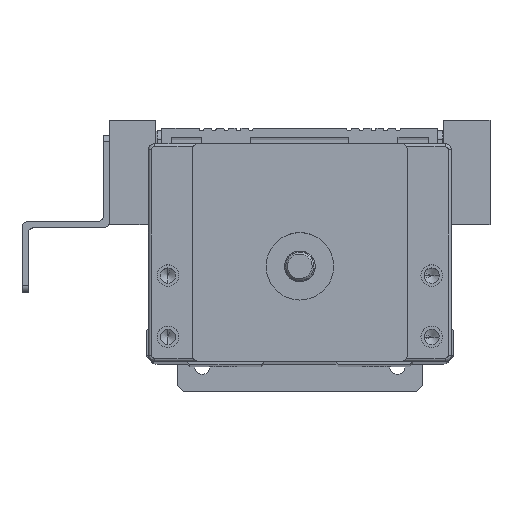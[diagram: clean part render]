
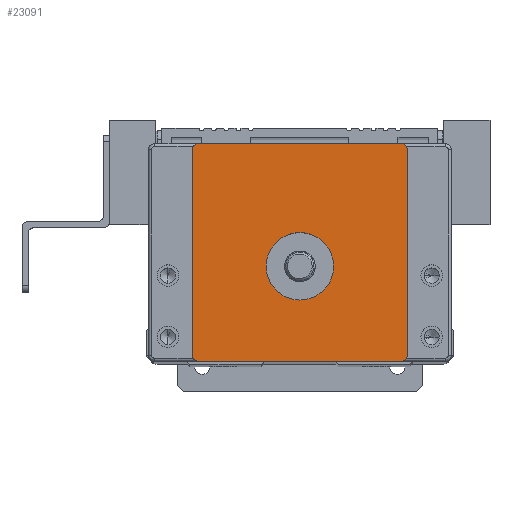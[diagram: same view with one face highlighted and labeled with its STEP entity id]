
A CAD part, top view. The second image highlights one B-rep face of the part: STEP entity #23091.
In plain terms, the highlighted planar face has unit normal (0, 0, 1).
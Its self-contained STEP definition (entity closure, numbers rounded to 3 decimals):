
#305 = CIRCLE ( 'NONE', #14840, 1. ) ;
#519 = DIRECTION ( 'NONE',  ( -1., 0., 0. ) ) ;
#833 = FACE_BOUND ( 'NONE', #13162, .T. ) ;
#2068 = CARTESIAN_POINT ( 'NONE',  ( -17.5, 0., 10. ) ) ;
#2454 = CIRCLE ( 'NONE', #12932, 5.5 ) ;
#2723 = CARTESIAN_POINT ( 'NONE',  ( 16.5, -16.75, 10. ) ) ;
#2994 = CARTESIAN_POINT ( 'NONE',  ( 24.7, 17.75, 10. ) ) ;
#3282 = DIRECTION ( 'NONE',  ( 1., 0., 0. ) ) ;
#3734 = DIRECTION ( 'NONE',  ( 0., 0., -1. ) ) ;
#3794 = CARTESIAN_POINT ( 'NONE',  ( -17.5, 16.75, 10. ) ) ;
#4267 = VERTEX_POINT ( 'NONE', #20035 ) ;
#4440 = CARTESIAN_POINT ( 'NONE',  ( 0., -2.25, 10. ) ) ;
#4634 = DIRECTION ( 'NONE',  ( 0., 0., 1. ) ) ;
#5000 = CARTESIAN_POINT ( 'NONE',  ( -5.5, -2.25, 10. ) ) ;
#5219 = DIRECTION ( 'NONE',  ( -1., 0., 0. ) ) ;
#5309 = EDGE_CURVE ( 'NONE', #22782, #15042, #30340, .T. ) ;
#5402 = ORIENTED_EDGE ( 'NONE', *, *, #21444, .T. ) ;
#5727 = CARTESIAN_POINT ( 'NONE',  ( 17.5, 0., 10. ) ) ;
#5755 = CARTESIAN_POINT ( 'NONE',  ( 5.5, -2.25, 10. ) ) ;
#6715 = CARTESIAN_POINT ( 'NONE',  ( 16.5, -17.75, 10. ) ) ;
#6928 = DIRECTION ( 'NONE',  ( -1., 0., 0. ) ) ;
#6946 = EDGE_CURVE ( 'NONE', #9465, #4267, #20616, .T. ) ;
#7200 = CARTESIAN_POINT ( 'NONE',  ( 24.7, -17.75, 10. ) ) ;
#7702 = CIRCLE ( 'NONE', #8047, 1. ) ;
#8012 = VERTEX_POINT ( 'NONE', #3794 ) ;
#8047 = AXIS2_PLACEMENT_3D ( 'NONE', #13707, #30867, #16187 ) ;
#8057 = CARTESIAN_POINT ( 'NONE',  ( -17.5, -16.75, 10. ) ) ;
#8163 = ORIENTED_EDGE ( 'NONE', *, *, #29317, .T. ) ;
#8520 = ORIENTED_EDGE ( 'NONE', *, *, #30378, .T. ) ;
#9381 = VECTOR ( 'NONE', #16817, 1000. ) ;
#9465 = VERTEX_POINT ( 'NONE', #31837 ) ;
#9469 = ORIENTED_EDGE ( 'NONE', *, *, #9665, .T. ) ;
#9665 = EDGE_CURVE ( 'NONE', #17895, #9465, #20188, .T. ) ;
#10252 = VERTEX_POINT ( 'NONE', #8057 ) ;
#10355 = ORIENTED_EDGE ( 'NONE', *, *, #24929, .T. ) ;
#10572 = VECTOR ( 'NONE', #519, 1000. ) ;
#10829 = VERTEX_POINT ( 'NONE', #5755 ) ;
#10916 = VERTEX_POINT ( 'NONE', #30624 ) ;
#11405 = CARTESIAN_POINT ( 'NONE',  ( -16.5, 16.75, 10. ) ) ;
#11549 = VECTOR ( 'NONE', #24344, 1000. ) ;
#11650 = FACE_OUTER_BOUND ( 'NONE', #21599, .T. ) ;
#12039 = EDGE_CURVE ( 'NONE', #8012, #10252, #23164, .T. ) ;
#12932 = AXIS2_PLACEMENT_3D ( 'NONE', #18490, #3734, #20893 ) ;
#13162 = EDGE_LOOP ( 'NONE', ( #5402, #8520 ) ) ;
#13707 = CARTESIAN_POINT ( 'NONE',  ( -16.5, -16.75, 10. ) ) ;
#13864 = DIRECTION ( 'NONE',  ( -1., 0., 0. ) ) ;
#14840 = AXIS2_PLACEMENT_3D ( 'NONE', #11405, #28539, #13864 ) ;
#15042 = VERTEX_POINT ( 'NONE', #6715 ) ;
#15236 = EDGE_CURVE ( 'NONE', #10916, #8012, #305, .T. ) ;
#15554 = PLANE ( 'NONE',  #30642 ) ;
#16187 = DIRECTION ( 'NONE',  ( -1., 0., 0. ) ) ;
#16466 = ORIENTED_EDGE ( 'NONE', *, *, #6946, .T. ) ;
#16817 = DIRECTION ( 'NONE',  ( 0., -1., 0. ) ) ;
#17339 = AXIS2_PLACEMENT_3D ( 'NONE', #2723, #19922, #5219 ) ;
#17895 = VERTEX_POINT ( 'NONE', #31222 ) ;
#17934 = CARTESIAN_POINT ( 'NONE',  ( 0., 0., 10. ) ) ;
#17992 = DIRECTION ( 'NONE',  ( 0., 1., 0. ) ) ;
#18043 = DIRECTION ( 'NONE',  ( 0., 0., 1. ) ) ;
#18404 = ORIENTED_EDGE ( 'NONE', *, *, #5309, .T. ) ;
#18490 = CARTESIAN_POINT ( 'NONE',  ( 0., -2.25, 10. ) ) ;
#18600 = ORIENTED_EDGE ( 'NONE', *, *, #15236, .T. ) ;
#19337 = CARTESIAN_POINT ( 'NONE',  ( 16.5, 16.75, 10. ) ) ;
#19922 = DIRECTION ( 'NONE',  ( 0., 0., 1. ) ) ;
#20035 = CARTESIAN_POINT ( 'NONE',  ( 16.5, 17.75, 10. ) ) ;
#20188 = LINE ( 'NONE', #5727, #25932 ) ;
#20616 = CIRCLE ( 'NONE', #22924, 1. ) ;
#20893 = DIRECTION ( 'NONE',  ( -1., 0., 0. ) ) ;
#21080 = CIRCLE ( 'NONE', #17339, 1. ) ;
#21329 = ORIENTED_EDGE ( 'NONE', *, *, #25192, .T. ) ;
#21444 = EDGE_CURVE ( 'NONE', #22270, #10829, #2454, .T. ) ;
#21581 = DIRECTION ( 'NONE',  ( 0., 0., -1. ) ) ;
#21599 = EDGE_LOOP ( 'NONE', ( #8163, #18600, #28551, #10355, #18404, #21329, #9469, #16466 ) ) ;
#21767 = DIRECTION ( 'NONE',  ( -1., 0., 0. ) ) ;
#22270 = VERTEX_POINT ( 'NONE', #5000 ) ;
#22782 = VERTEX_POINT ( 'NONE', #24248 ) ;
#22924 = AXIS2_PLACEMENT_3D ( 'NONE', #19337, #4634, #21767 ) ;
#23091 = ADVANCED_FACE ( 'NONE', ( #833, #11650 ), #15554, .T. ) ;
#23164 = LINE ( 'NONE', #2068, #9381 ) ;
#23586 = LINE ( 'NONE', #2994, #10572 ) ;
#24248 = CARTESIAN_POINT ( 'NONE',  ( -16.5, -17.75, 10. ) ) ;
#24344 = DIRECTION ( 'NONE',  ( 1., 0., 0. ) ) ;
#24929 = EDGE_CURVE ( 'NONE', #10252, #22782, #7702, .T. ) ;
#25192 = EDGE_CURVE ( 'NONE', #15042, #17895, #21080, .T. ) ;
#25659 = AXIS2_PLACEMENT_3D ( 'NONE', #4440, #21581, #6928 ) ;
#25932 = VECTOR ( 'NONE', #17992, 1000. ) ;
#28539 = DIRECTION ( 'NONE',  ( 0., 0., 1. ) ) ;
#28551 = ORIENTED_EDGE ( 'NONE', *, *, #12039, .T. ) ;
#29317 = EDGE_CURVE ( 'NONE', #4267, #10916, #23586, .T. ) ;
#30128 = CIRCLE ( 'NONE', #25659, 5.5 ) ;
#30340 = LINE ( 'NONE', #7200, #11549 ) ;
#30378 = EDGE_CURVE ( 'NONE', #10829, #22270, #30128, .T. ) ;
#30624 = CARTESIAN_POINT ( 'NONE',  ( -16.5, 17.75, 10. ) ) ;
#30642 = AXIS2_PLACEMENT_3D ( 'NONE', #17934, #18043, #3282 ) ;
#30867 = DIRECTION ( 'NONE',  ( 0., 0., 1. ) ) ;
#31222 = CARTESIAN_POINT ( 'NONE',  ( 17.5, -16.75, 10. ) ) ;
#31837 = CARTESIAN_POINT ( 'NONE',  ( 17.5, 16.75, 10. ) ) ;
